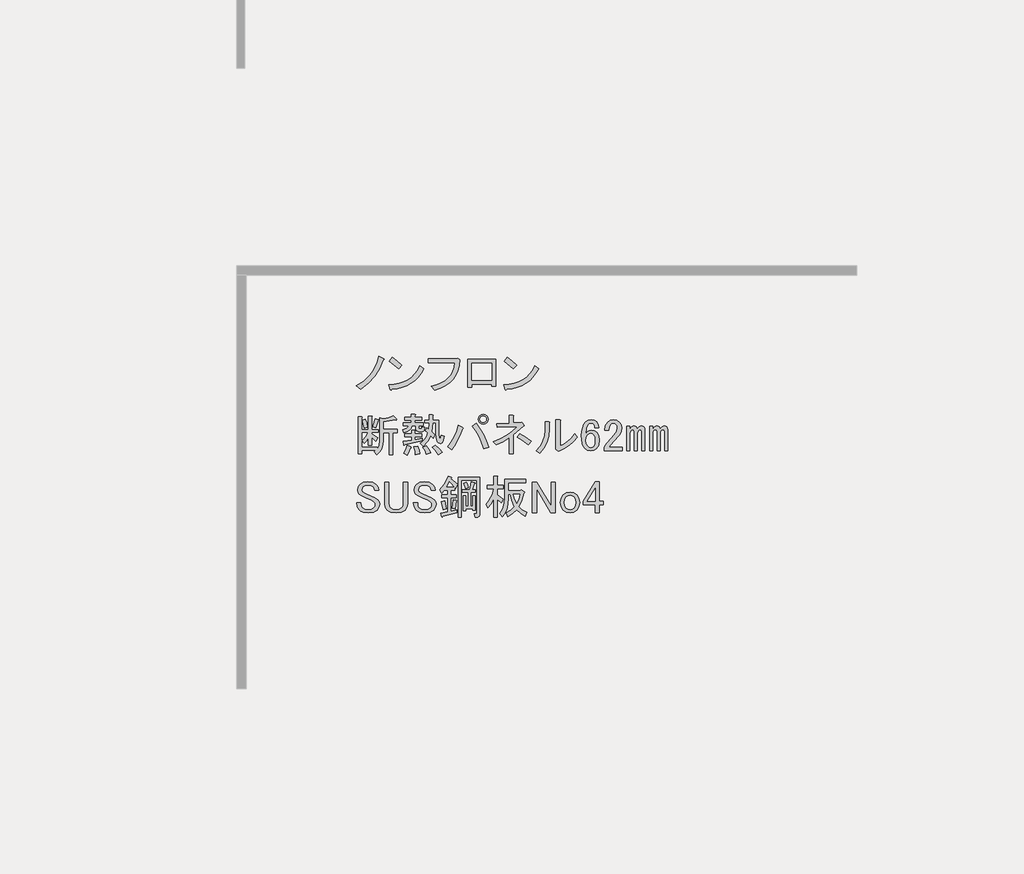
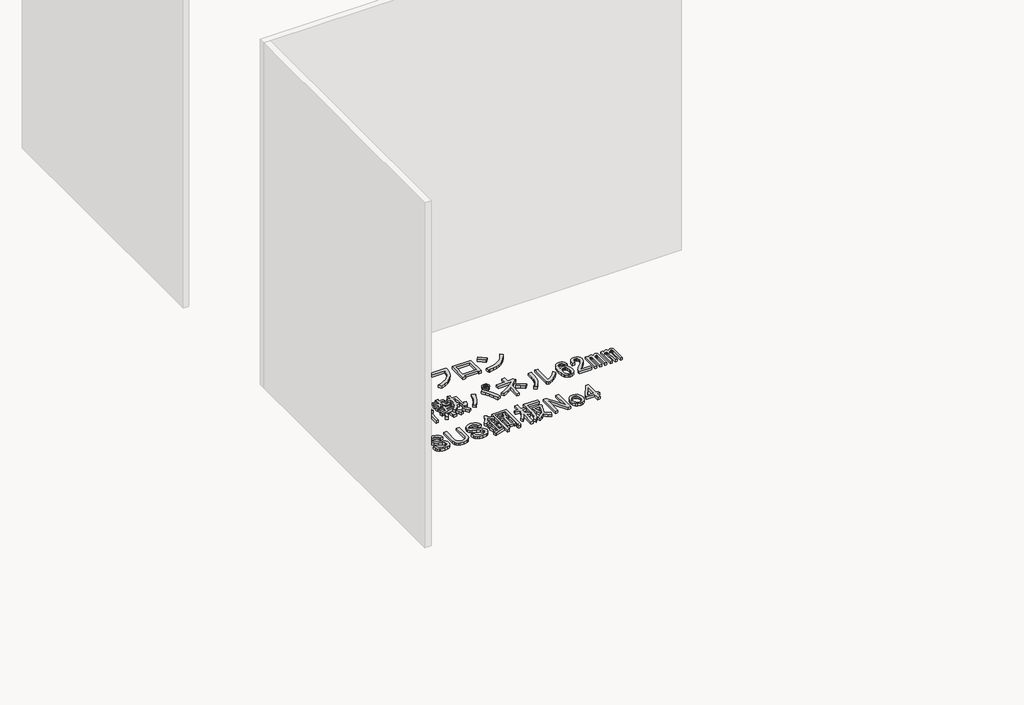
# One storey, part 90 of 117: 1 proxy.
"""IFC4 building model written with IfcOpenShell, lengths in millimetres."""

from ifc_helpers import new_model, si_unit, frame, origin, place, context, project, spatial, polyline, outline, extrude, element, save

model = new_model("IFC4")

# Units and contexts
model_context = context("Model", 3, world=origin())
ifc_project = project(units=[si_unit("LENGTHUNIT", "METRE", prefix="MILLI")], contexts=[model_context])

# Site, building, storey
site = spatial("IfcSite", under=ifc_project)
building = spatial("IfcBuilding", under=site)
storey = spatial("IfcBuildingStorey", under=building, Name="レベル 1", Elevation=500.0)

# Proxy
placement = place(None, origin())
element("IfcBuildingElementProxy", 1, Name="200㎜\u3000MS Pゴシック", ObjectType="200㎜\u3000MS Pゴシック", at=placement, inside=storey, context=model_context, shape_type="SweptSolid", body=[
    extrude(outline(polyline([(16943.6706985, 3392.9503118), (16918.0952502, 3333.1784775), (16889.646156, 3287.2001434), (16847.9782907, 3241.7965385), (16798.8389462, 3204.439142), (16771.2519457, 3226.2788507), (16818.9544673, 3256.7394971), (16858.6107805, 3295.2463519), (16875.9963381, 3319.1694538), (16891.3703435, 3347.2593423), (16904.7327969, 3379.5160173), (16916.0836981, 3415.9394788), (16947.1190736, 3402.1459786), (16950.2800841, 3397.5481452), (16943.6706985, 3392.9503118)])), frame((0.0, 0.0, 500.0), z_axis=(0.0, 0.0, 1.0), x_axis=(1.0, 0.0, 0.0)), (0.0, 0.0, 1.0), 25.0),
    extrude(outline(polyline([(17043.3977052, 3337.7763109), (16984.7753292, 3384.9041033), (17004.3161212, 3409.0427287), (17031.6157571, 3389.2145721), (17065.2374138, 3359.6160196), (17043.3977052, 3337.7763109)])), frame((0.0, 0.0, 500.0), z_axis=(0.0, 0.0, 1.0), x_axis=(1.0, 0.0, 0.0)), (0.0, 0.0, 1.0), 25.0),
    extrude(outline(polyline([(17205.4713328, 3337.7763109), (17188.947869, 3308.034076), (17169.8381239, 3282.0275808), (17148.1420975, 3259.7568252), (17123.8597898, 3241.2218093), (17096.9912008, 3226.422533), (17067.5363306, 3215.3589964), (17035.495179, 3208.0311994), (17000.8677461, 3204.439142), (16995.1204544, 3196.3929336), (16989.3731626, 3202.1402253), (16980.1774958, 3232.0261425), (17016.0082679, 3234.7022252), (17048.7857912, 3241.0062859), (17078.5100658, 3250.9383244), (17105.1810916, 3264.4983409), (17128.7988687, 3281.6863354), (17149.363397, 3302.5023077), (17166.8746766, 3326.946258), (17181.3327074, 3355.0181862), (17205.4713328, 3337.7763109)])), frame((0.0, 0.0, 500.0), z_axis=(0.0, 0.0, 1.0), x_axis=(1.0, 0.0, 0.0)), (0.0, 0.0, 1.0), 25.0),
    extrude(outline(polyline([(17256.2314136, 3222.8304757), (17290.014713, 3232.5110702), (17319.5234641, 3244.8857078), (17344.757667, 3259.9543884), (17365.7173217, 3277.717112), (17382.402428, 3298.1738786), (17394.8129862, 3321.3246882), (17402.9489961, 3347.1695409), (17406.8104577, 3375.7084365), (17234.3917049, 3375.7084365), (17234.3917049, 3400.9965202), (17409.1093744, 3400.9965202), (17425.2017914, 3404.4448953), (17437.8458332, 3392.9503118), (17434.325617, 3356.4550091), (17426.0638851, 3323.4080815), (17413.0606375, 3293.8095289), (17395.3158742, 3267.6593514), (17372.8295952, 3244.957549), (17345.6018005, 3225.7041216), (17313.6324901, 3209.8990692), (17276.921664, 3197.5423919), (17256.2314136, 3222.8304757)])), frame((0.0, 0.0, 500.0), z_axis=(0.0, 0.0, 1.0), x_axis=(1.0, 0.0, 0.0)), (0.0, 0.0, 1.0), 25.0),
    extrude(outline(polyline([(17670.955987, 3223.979934), (17644.5184449, 3223.979934), (17644.5184449, 3236.6239759), (17516.9285679, 3236.6239759), (17516.9285679, 3218.2326423), (17490.4910258, 3218.2326423), (17490.4910258, 3397.5481452), (17670.955987, 3397.5481452), (17670.955987, 3223.979934)]), holes=[polyline([(17516.9285679, 3372.2600614), (17516.9285679, 3261.9120596), (17644.5184449, 3261.9120596), (17644.5184449, 3372.2600614), (17516.9285679, 3372.2600614)])]), frame((0.0, 0.0, 500.0), z_axis=(0.0, 0.0, 1.0), x_axis=(1.0, 0.0, 0.0)), (0.0, 0.0, 1.0), 25.0),
    extrude(outline(polyline([(17947.0099049, 3337.7763109), (17930.4864411, 3308.034076), (17911.376696, 3282.0275808), (17889.6806696, 3259.7568252), (17865.3983619, 3241.2218093), (17838.5297729, 3226.422533), (17809.0749026, 3215.3589964), (17777.0337511, 3208.0311994), (17742.4063182, 3204.439142), (17736.6590264, 3196.3929336), (17730.9117347, 3202.1402253), (17721.7160679, 3232.0261425), (17757.5468399, 3234.7022252), (17790.3243633, 3241.0062859), (17820.0486378, 3250.9383244), (17846.7196637, 3264.4983409), (17870.3374407, 3281.6863354), (17890.9019691, 3302.5023077), (17908.4132486, 3326.946258), (17922.8712795, 3355.0181862), (17947.0099049, 3337.7763109)])), frame((0.0, 0.0, 500.0), z_axis=(0.0, 0.0, 1.0), x_axis=(1.0, 0.0, 0.0)), (0.0, 0.0, 1.0), 25.0),
    extrude(outline(polyline([(17784.9362772, 3337.7763109), (17726.3139013, 3384.9041033), (17745.8546933, 3409.0427287), (17773.1543291, 3389.2145721), (17806.7759859, 3359.6160196), (17784.9362772, 3337.7763109)])), frame((0.0, 0.0, 500.0), z_axis=(0.0, 0.0, 1.0), x_axis=(1.0, 0.0, 0.0)), (0.0, 0.0, 1.0), 25.0),
    extrude(outline(polyline([(16877.0021141, 2960.7654779), (16894.2439894, 3013.6405621), (16914.9342397, 3007.8932704), (16916.6584273, 3004.7322599), (16912.635323, 3002.1459786), (16895.3934478, 2953.8687278), (16877.0021141, 2960.7654779)])), frame((0.0, 0.0, 500.0), z_axis=(0.0, 0.0, 1.0), x_axis=(1.0, 0.0, 0.0)), (0.0, 0.0, 1.0), 25.0),
    extrude(outline(polyline([(17031.0295333, 3009.0427287), (17029.3053458, 3004.4448953), (17021.8338665, 3006.743812), (16944.8201569, 2994.0997701), (16944.8201569, 2944.673061), (17036.7768251, 2944.673061), (17036.7768251, 2922.8333523), (17005.7414495, 2922.8333523), (17005.7414495, 2782.5994334), (16982.7522825, 2782.5994334), (16982.7522825, 2922.8333523), (16944.8201569, 2922.8333523), (16944.8201569, 2873.4066432), (16942.2338756, 2845.6041193), (16934.4750317, 2820.8189236), (16921.5436253, 2799.051056), (16903.4396562, 2780.3005167), (16886.1977809, 2799.8413086), (16896.5429061, 2809.0369755), (16806.8851546, 2809.0369755), (16806.8851546, 2787.1972668), (16783.8959876, 2787.1972668), (16783.8959876, 3026.284604), (16805.7356963, 3026.284604), (16810.6208943, 3023.9856873), (16806.8851546, 3019.3878539), (16806.8851546, 2943.5236026), (16849.4151137, 2943.5236026), (16849.4151137, 3030.8824374), (16867.8064473, 3030.8824374), (16872.6916453, 3028.5835207), (16868.9559057, 3023.9856873), (16868.9559057, 2943.5236026), (16912.635323, 2943.5236026), (16912.635323, 2925.132269), (16868.9559057, 2925.132269), (16868.9559057, 2915.9366022), (16909.186948, 2889.4990601), (16895.3934478, 2867.6593514), (16868.9559057, 2894.0968935), (16868.9559057, 2841.2218093), (16849.4151137, 2841.2218093), (16849.4151137, 2889.4990601), (16836.1963426, 2869.6709035), (16821.8281132, 2853.8658512), (16809.1840713, 2872.2571848), (16831.02378, 2896.3958102), (16848.2656553, 2925.132269), (16806.8851546, 2925.132269), (16806.8851546, 2830.8766841), (16904.5891146, 2830.8766841), (16904.5891146, 2817.0831839), (16917.520521, 2841.2218093), (16921.8309898, 2874.5561015), (16921.8309898, 3019.3878539), (16943.6706985, 3013.6405621), (16979.8786366, 3021.1120414), (17010.339283, 3034.3308125), (17031.0295333, 3009.0427287)])), frame((0.0, 0.0, 500.0), z_axis=(0.0, 0.0, 1.0), x_axis=(1.0, 0.0, 0.0)), (0.0, 0.0, 1.0), 25.0),
    extrude(outline(polyline([(16822.9775716, 2952.7192695), (16810.3335297, 3003.2954369), (16829.8743217, 3010.1921871), (16837.6331656, 2986.0535617), (16842.5183636, 2959.6160196), (16822.9775716, 2952.7192695)])), frame((0.0, 0.0, 500.0), z_axis=(0.0, 0.0, 1.0), x_axis=(1.0, 0.0, 0.0)), (0.0, 0.0, 1.0), 25.0),
    extrude(outline(polyline([(17121.8367431, 2832.0261425), (17125.2851182, 2827.1409445), (17119.5378264, 2823.979934), (17109.7674304, 2798.4044857), (17098.8475761, 2779.1510583), (17075.858409, 2790.6456418), (17088.5024509, 2814.209538), (17098.8475761, 2841.2218093), (17121.8367431, 2832.0261425)])), frame((0.0, 0.0, 500.0), z_axis=(0.0, 0.0, 1.0), x_axis=(1.0, 0.0, 0.0)), (0.0, 0.0, 1.0), 25.0),
    extrude(outline(polyline([(17166.6656188, 2836.6239759), (17176.7233794, 2809.32434), (17181.6085774, 2787.1972668), (17152.8721186, 2781.449975), (17150.2858373, 2803.0023191), (17142.5269934, 2833.1756008), (17166.6656188, 2836.6239759)])), frame((0.0, 0.0, 500.0), z_axis=(0.0, 0.0, 1.0), x_axis=(1.0, 0.0, 0.0)), (0.0, 0.0, 1.0), 25.0),
    extrude(outline(polyline([(17281.611454, 2842.3712677), (17306.3248086, 2821.1062881), (17325.2908714, 2796.3929336), (17298.8533293, 2781.449975), (17279.5999019, 2811.0485276), (17260.9212037, 2830.8766841), (17281.611454, 2842.3712677)])), frame((0.0, 0.0, 500.0), z_axis=(0.0, 0.0, 1.0), x_axis=(1.0, 0.0, 0.0)), (0.0, 0.0, 1.0), 25.0),
    extrude(outline(polyline([(17222.9890781, 2783.7488917), (17214.655505, 2808.4622463), (17201.1493694, 2829.7272258), (17221.8396197, 2837.7734343), (17238.7941304, 2816.2210902), (17250.5760785, 2792.9445585), (17222.9890781, 2783.7488917)])), frame((0.0, 0.0, 500.0), z_axis=(0.0, 0.0, 1.0), x_axis=(1.0, 0.0, 0.0)), (0.0, 0.0, 1.0), 25.0),
    extrude(outline(polyline([(17083.9046175, 2846.9691011), (17081.8930654, 2842.0839031), (17078.1573257, 2843.520726), (17072.410034, 2867.6593514), (17127.5840349, 2875.7055599), (17127.5840349, 2898.6947269), (17083.9046175, 2898.6947269), (17083.9046175, 2917.0860605), (17127.5840349, 2917.0860605), (17127.5840349, 2940.0752276), (17145.9753685, 2940.0752276), (17150.8605665, 2937.7763109), (17147.1248268, 2933.1784775), (17147.1248268, 2917.0860605), (17191.9537026, 2917.0860605), (17191.9537026, 2898.6947269), (17147.1248268, 2898.6947269), (17147.1248268, 2879.1539349), (17197.7009943, 2888.3496017), (17197.7009943, 2872.2571848), (17083.9046175, 2846.9691011)])), frame((0.0, 0.0, 500.0), z_axis=(0.0, 0.0, 1.0), x_axis=(1.0, 0.0, 0.0)), (0.0, 0.0, 1.0), 25.0),
    extrude(outline(polyline([(17154.021577, 2968.8116864), (17128.7334932, 2968.8116864), (17124.1356598, 2951.3542877), (17113.7905346, 2938.0636755), (17097.6981177, 2928.9398498), (17075.858409, 2923.9828107), (17071.2605756, 2943.5236026), (17096.5486594, 2952.1445403), (17104.0201386, 2959.4723373), (17108.0432429, 2968.8116864), (17072.410034, 2968.8116864), (17072.410034, 2987.20302), (17126.4345765, 2987.20302), (17126.4345765, 3004.4448953), (17082.7551591, 3004.4448953), (17082.7551591, 3022.8362289), (17126.4345765, 3022.8362289), (17126.4345765, 3041.2275626), (17148.2742852, 3041.2275626), (17153.1594832, 3038.9286459), (17149.4237436, 3034.3308125), (17149.4237436, 3022.8362289), (17191.9537026, 3022.8362289), (17191.9537026, 3004.4448953), (17149.4237436, 3004.4448953), (17149.4237436, 2987.20302), (17202.2988277, 2987.20302), (17202.2988277, 2968.8116864), (17173.5623689, 2968.8116864), (17173.5623689, 2956.1676445), (17174.9991919, 2950.9950819), (17179.3096607, 2949.2708944), (17189.6547859, 2949.2708944), (17193.3905255, 2952.4319049), (17193.1031609, 2961.9149363), (17212.6439529, 2959.6160196), (17209.770307, 2938.0636755), (17204.4540622, 2932.6755894), (17196.551536, 2930.8795608), (17172.4129106, 2930.8795608), (17158.6194104, 2935.7647588), (17154.021577, 2950.4203528), (17154.021577, 2968.8116864)])), frame((0.0, 0.0, 500.0), z_axis=(0.0, 0.0, 1.0), x_axis=(1.0, 0.0, 0.0)), (0.0, 0.0, 1.0), 25.0),
    extrude(outline(polyline([(17285.0598291, 2986.0535617), (17263.2201204, 2986.0535617), (17258.622287, 2928.5806441), (17278.163079, 2910.1893104), (17267.8179538, 2888.3496017), (17251.7255369, 2904.4420187), (17232.4721095, 2866.7972576), (17202.2988277, 2834.3250592), (17185.0569525, 2855.0153095), (17200.1435933, 2866.9409399), (17213.2186821, 2882.0275808), (17224.2822187, 2900.2752321), (17233.3342033, 2921.683894), (17216.092328, 2936.6268525), (17224.1385364, 2953.8687278), (17237.9320367, 2943.5236026), (17240.2309534, 2986.0535617), (17212.6439529, 2986.0535617), (17212.6439529, 3004.4448953), (17240.2309534, 3004.4448953), (17240.2309534, 3038.9286459), (17262.0706621, 3038.9286459), (17266.95586, 3036.6297292), (17263.2201204, 3032.0318957), (17263.2201204, 3004.4448953), (17304.6006211, 3004.4448953), (17304.6006211, 2907.8903937), (17308.0489961, 2883.7517683), (17311.2818477, 2881.7402162), (17314.0836525, 2884.9012267), (17318.3941213, 2906.7409354), (17337.9349133, 2899.8441853), (17333.408921, 2873.0474374), (17325.578236, 2857.0268616), (17314.4428582, 2851.7824579), (17300.0027877, 2857.3142262), (17293.4652433, 2864.6420232), (17288.7955687, 2876.280289), (17285.0598291, 2912.4882271), (17285.0598291, 2986.0535617)])), frame((0.0, 0.0, 500.0), z_axis=(0.0, 0.0, 1.0), x_axis=(1.0, 0.0, 0.0)), (0.0, 0.0, 1.0), 25.0),
    extrude(outline(polyline([(17543.6879583, 2983.754645), (17570.3410238, 2947.0438188), (17592.8273029, 2909.3272167), (17611.1467953, 2870.6048384), (17625.2995013, 2830.8766841), (17594.2641258, 2820.531559), (17578.8182792, 2863.6362472), (17561.2171982, 2902.143102), (17541.4608827, 2936.0521234), (17519.5493329, 2965.3633113), (17543.6879583, 2983.754645)])), frame((0.0, 0.0, 500.0), z_axis=(0.0, 0.0, 1.0), x_axis=(1.0, 0.0, 0.0)), (0.0, 0.0, 1.0), 25.0),
    extrude(outline(polyline([(17456.3291235, 2957.3171029), (17460.3522278, 2951.8571757), (17454.0302068, 2946.9719777), (17442.1045764, 2911.5542922), (17427.0179356, 2877.717112), (17408.7702842, 2845.460437), (17387.3616224, 2814.7842672), (17360.9240803, 2832.0261425), (17384.1287708, 2863.4925649), (17403.1666748, 2896.9705394), (17418.0377922, 2932.460066), (17428.7421231, 2969.9611447), (17456.3291235, 2957.3171029)])), frame((0.0, 0.0, 500.0), z_axis=(0.0, 0.0, 1.0), x_axis=(1.0, 0.0, 0.0)), (0.0, 0.0, 1.0), 25.0),
    extrude(outline(polyline([(17589.6662924, 2978.0073532), (17577.0222505, 2980.3062699), (17566.6771253, 2987.20302), (17559.7803752, 2997.5481452), (17557.4814585, 3010.1921871), (17559.7803752, 3022.8362289), (17566.6771253, 3033.1813541), (17577.0222505, 3040.0781042), (17589.6662924, 3042.3770209), (17602.3103343, 3040.0781042), (17612.6554594, 3033.1813541), (17619.5522095, 3022.8362289), (17621.8511262, 3010.1921871), (17619.5522095, 2997.5481452), (17612.6554594, 2987.20302), (17602.3103343, 2980.3062699), (17589.6662924, 2978.0073532)]), holes=[polyline([(17589.6662924, 2989.5019367), (17597.9998654, 2990.9387597), (17604.609251, 2995.2492285), (17608.9197198, 3001.858614), (17610.3565427, 3010.1921871), (17608.9197198, 3018.5257601), (17604.609251, 3025.1351456), (17597.9998654, 3029.4456145), (17589.6662924, 3030.8824374), (17581.3327193, 3029.4456145), (17574.7233338, 3025.1351456), (17570.412865, 3018.5257601), (17568.976042, 3010.1921871), (17570.412865, 3001.858614), (17574.7233338, 2995.2492285), (17581.3327193, 2990.9387597), (17589.6662924, 2989.5019367)])]), frame((0.0, 0.0, 500.0), z_axis=(0.0, 0.0, 1.0), x_axis=(1.0, 0.0, 0.0)), (0.0, 0.0, 1.0), 25.0),
    extrude(outline(polyline([(17879.3297971, 2844.6701844), (17842.2597652, 2873.9813723), (17809.2128376, 2895.2463519), (17826.4547129, 2917.0860605), (17865.2489323, 2893.8095289), (17898.8705891, 2867.6593514), (17879.3297971, 2844.6701844)])), frame((0.0, 0.0, 500.0), z_axis=(0.0, 0.0, 1.0), x_axis=(1.0, 0.0, 0.0)), (0.0, 0.0, 1.0), 25.0),
    extrude(outline(polyline([(17833.351463, 2988.3524784), (17840.2482131, 2990.6513951), (17852.892255, 2973.4095198), (17854.0417134, 2967.3748634), (17848.2944216, 2965.3633113), (17785.0742122, 2909.0398521), (17785.0742122, 2788.3467251), (17758.6366701, 2788.3467251), (17758.6366701, 2890.6485184), (17718.4056278, 2866.5098931), (17673.5767521, 2844.6701844), (17654.0359601, 2865.3604347), (17699.5832473, 2884.8293855), (17740.8200657, 2907.6030291), (17777.7464152, 2933.6813655), (17810.362296, 2963.0643946), (17680.4735022, 2957.3171029), (17677.0251271, 2982.6051866), (17758.6366701, 2984.9041033), (17758.6366701, 3036.6297292), (17781.6258372, 3036.6297292), (17787.6604935, 3033.1813541), (17785.0742122, 3027.4340623), (17785.0742122, 2986.0535617), (17833.351463, 2988.3524784)])), frame((0.0, 0.0, 500.0), z_axis=(0.0, 0.0, 1.0), x_axis=(1.0, 0.0, 0.0)), (0.0, 0.0, 1.0), 25.0),
    extrude(outline(polyline([(17932.296838, 2806.7380587), (17957.4412394, 2835.9774056), (17975.4015262, 2868.5214452), (17986.1776982, 2904.3701775), (17989.7697556, 2943.5236026), (17989.7697556, 2995.2492285), (18013.908381, 2995.2492285), (18019.6556727, 2991.8008534), (18016.2072977, 2986.0535617), (18016.2072977, 2944.673061), (18012.3997169, 2898.9102504), (18000.9769745, 2858.17632), (17981.9390705, 2822.4712699), (17955.286005, 2791.7951002), (17932.296838, 2806.7380587)])), frame((0.0, 0.0, 500.0), z_axis=(0.0, 0.0, 1.0), x_axis=(1.0, 0.0, 0.0)), (0.0, 0.0, 1.0), 25.0),
    extrude(outline(polyline([(18086.3242571, 2837.7734343), (18111.1094529, 2849.9864292), (18134.8888725, 2867.0846222), (18157.6625161, 2889.0680132), (18179.4303837, 2915.9366022), (18195.5228006, 2894.0968935), (18172.246269, 2866.2943696), (18146.0960914, 2842.6586322), (18117.0722681, 2823.1896814), (18085.1747988, 2807.8875171), (18075.979132, 2803.2896837), (18057.5877983, 2817.0831839), (18059.886715, 2822.8304757), (18059.886715, 3007.8932704), (18084.0253404, 3007.8932704), (18089.7726322, 3004.4448953), (18086.3242571, 2998.6976035), (18086.3242571, 2837.7734343)])), frame((0.0, 0.0, 500.0), z_axis=(0.0, 0.0, 1.0), x_axis=(1.0, 0.0, 0.0)), (0.0, 0.0, 1.0), 25.0),
    extrude(outline(polyline([(18224.2592594, 2902.143102), (18225.9834469, 2931.5261311), (18231.1560095, 2956.4550091), (18239.7769471, 2976.929736), (18251.8462598, 2992.9503118), (18267.3639476, 3003.2954369), (18286.3300104, 3006.743812), (18306.158167, 3003.2954369), (18321.9632193, 2992.9503118), (18333.1704382, 2975.9958011), (18336.9061779, 2955.0181862), (18310.4686358, 2955.0181862), (18308.7444483, 2968.8116864), (18303.5718857, 2978.0073532), (18295.8130418, 2983.1799158), (18286.3300104, 2984.9041033), (18276.846979, 2983.1799158), (18269.0881351, 2978.0073532), (18261.0419266, 2967.0874989), (18255.2946349, 2952.7192695), (18250.6968015, 2913.6376855), (18262.191385, 2928.5806441), (18273.6859685, 2936.3394879), (18287.4794687, 2938.9257692), (18306.4455316, 2935.4773942), (18321.9632193, 2925.132269), (18334.8946258, 2903.5799249), (18339.2050946, 2873.4066432), (18334.6072612, 2842.0839031), (18320.813761, 2819.3821006), (18304.4339794, 2809.0369755), (18282.8816353, 2805.5886004), (18263.0534788, 2809.8990692), (18244.9495097, 2822.8304757), (18235.8975252, 2835.5463587), (18229.431822, 2853.0037574), (18224.2592594, 2902.143102)]), holes=[polyline([(18285.180552, 2918.2355189), (18274.5480623, 2916.2239668), (18265.6397601, 2910.1893104), (18256.1567286, 2895.2463519), (18252.9957182, 2875.7055599), (18256.4440932, 2851.5669345), (18266.7892184, 2834.3250592), (18275.1227915, 2828.2904028), (18284.0310937, 2826.2788507), (18293.5141251, 2828.0030383), (18301.272969, 2833.1756008), (18309.0318128, 2848.405924), (18311.6180941, 2873.4066432), (18309.0318128, 2895.821081), (18301.272969, 2910.1893104), (18293.2267605, 2916.2239668), (18285.180552, 2918.2355189)])]), frame((0.0, 0.0, 500.0), z_axis=(0.0, 0.0, 1.0), x_axis=(1.0, 0.0, 0.0)), (0.0, 0.0, 1.0), 25.0),
    extrude(outline(polyline([(18374.8383035, 2937.7763109), (18379.4361369, 2969.099051), (18393.2296371, 2991.8008534), (18409.6094186, 3003.0080724), (18428.862846, 3006.743812), (18451.5646485, 3003.0080724), (18469.0938884, 2991.8008534), (18480.3011073, 2975.1337073), (18484.0368469, 2955.0181862), (18479.7263781, 2929.1553732), (18466.7949717, 2906.7409354), (18433.4606795, 2868.8088098), (18415.0693458, 2848.1185594), (18401.2758456, 2829.7272258), (18487.485222, 2829.7272258), (18487.485222, 2807.8875171), (18370.2404701, 2807.8875171), (18370.2404701, 2827.4283091), (18376.2751264, 2841.2218093), (18389.7812621, 2859.6131429), (18436.9090545, 2911.3387688), (18451.5646485, 2932.6037483), (18456.4498465, 2955.0181862), (18454.1509298, 2967.662228), (18447.2541797, 2978.0073532), (18439.4953358, 2983.1799158), (18430.0123044, 2984.9041033), (18421.3913668, 2983.1799158), (18413.9198875, 2978.0073532), (18404.4368561, 2961.6275717), (18401.2758456, 2937.7763109), (18374.8383035, 2937.7763109)])), frame((0.0, 0.0, 500.0), z_axis=(0.0, 0.0, 1.0), x_axis=(1.0, 0.0, 0.0)), (0.0, 0.0, 1.0), 25.0),
    extrude(outline(polyline([(18536.9119311, 2806.7380587), (18517.3711392, 2806.7380587), (18517.3711392, 2964.213853), (18536.9119311, 2964.213853), (18536.9119311, 2946.9719777), (18548.9812438, 2962.4896654), (18562.2000149, 2967.662228), (18571.3956817, 2966.2254051), (18578.2924318, 2961.9149363), (18585.1891819, 2948.121436), (18598.1205884, 2962.77703), (18611.626724, 2967.662228), (18619.9602971, 2966.2254051), (18626.5696826, 2961.9149363), (18631.7422452, 2953.2939986), (18633.4664327, 2941.2246859), (18633.4664327, 2806.7380587), (18613.9256407, 2806.7380587), (18613.9256407, 2930.8795608), (18611.3393594, 2940.3625922), (18603.5805156, 2943.5236026), (18593.2353904, 2938.9257692), (18587.200734, 2930.3048316), (18585.1891819, 2920.5344356), (18585.1891819, 2806.7380587), (18565.6483899, 2806.7380587), (18565.6483899, 2930.8795608), (18563.0621086, 2940.3625922), (18555.3032648, 2943.5236026), (18544.9581396, 2938.9257692), (18538.9234833, 2930.3048316), (18536.9119311, 2920.5344356), (18536.9119311, 2806.7380587)])), frame((0.0, 0.0, 500.0), z_axis=(0.0, 0.0, 1.0), x_axis=(1.0, 0.0, 0.0)), (0.0, 0.0, 1.0), 25.0),
    extrude(outline(polyline([(18758.7573931, 2967.662228), (18767.0909661, 2966.2254051), (18773.7003517, 2961.9149363), (18778.8729142, 2953.2939986), (18780.5971018, 2941.2246859), (18780.5971018, 2806.7380587), (18761.0563098, 2806.7380587), (18761.0563098, 2930.8795608), (18758.4700285, 2940.3625922), (18750.7111846, 2943.5236026), (18740.3660594, 2938.9257692), (18734.3314031, 2930.3048316), (18732.319851, 2920.5344356), (18732.319851, 2806.7380587), (18712.779059, 2806.7380587), (18712.779059, 2930.8795608), (18710.1927777, 2940.3625922), (18702.4339338, 2943.5236026), (18692.0888087, 2938.9257692), (18686.0541523, 2930.3048316), (18684.0426002, 2920.5344356), (18684.0426002, 2806.7380587), (18664.5018082, 2806.7380587), (18664.5018082, 2964.213853), (18684.0426002, 2964.213853), (18684.0426002, 2946.9719777), (18696.1119129, 2962.4896654), (18709.3306839, 2967.662228), (18718.5263508, 2966.2254051), (18725.4231009, 2961.9149363), (18732.319851, 2948.121436), (18745.2512574, 2962.77703), (18758.7573931, 2967.662228)])), frame((0.0, 0.0, 500.0), z_axis=(0.0, 0.0, 1.0), x_axis=(1.0, 0.0, 0.0)), (0.0, 0.0, 1.0), 25.0),
    extrude(outline(polyline([(16779.2981542, 2552.7192695), (16783.3212584, 2573.1221552), (16795.3905711, 2590.6513951), (16815.7934569, 2602.7207078), (16844.8172803, 2606.743812), (16876.1400204, 2602.1459786), (16898.8418228, 2588.3524784), (16910.9111355, 2570.8232385), (16914.9342397, 2550.4203528), (16888.4966976, 2550.4203528), (16886.1977809, 2563.0643946), (16879.3010308, 2573.4095198), (16866.0822598, 2581.1683637), (16847.116197, 2583.754645), (16826.7133112, 2581.4557283), (16813.7819048, 2574.5589781), (16807.7472484, 2565.9380405), (16805.7356963, 2556.1676445), (16810.3335297, 2541.2246859), (16831.02378, 2529.7301024), (16890.7956143, 2503.2925603), (16908.0374896, 2491.7979768), (16917.520521, 2478.0044766), (16920.6815315, 2461.9120596), (16916.6584273, 2440.6470801), (16904.5891146, 2422.8304757), (16894.6031951, 2415.2871552), (16881.8873121, 2409.8990692), (16848.2656553, 2405.5886004), (16814.6439985, 2410.761163), (16801.0660217, 2417.2268662), (16789.6432794, 2426.2788507), (16778.4360604, 2444.6701844), (16774.7003208, 2469.9582681), (16801.1378629, 2469.9582681), (16803.4367796, 2452.1416637), (16810.3335297, 2440.072351), (16826.4259466, 2430.5893196), (16849.4151137, 2427.4283091), (16870.3927286, 2430.301955), (16885.0483226, 2438.9228926), (16891.9450727, 2448.1185594), (16894.2439894, 2457.3142262), (16892.5198019, 2466.7972576), (16887.3472393, 2474.5561015), (16868.9559057, 2486.050685), (16839.0699885, 2499.8441853), (16805.7356963, 2514.7871438), (16789.6432794, 2525.132269), (16781.8844355, 2537.2015817), (16779.2981542, 2552.7192695)])), frame((0.0, 0.0, 500.0), z_axis=(0.0, 0.0, 1.0), x_axis=(1.0, 0.0, 0.0)), (0.0, 0.0, 1.0), 25.0),
    extrude(outline(polyline([(16954.7054987, 2604.4448953), (16981.1430408, 2604.4448953), (16981.1430408, 2466.5098931), (16983.7293221, 2451.8542991), (16991.488166, 2440.072351), (17007.0058537, 2430.5893196), (17028.2708332, 2427.4283091), (17049.5358128, 2430.5893196), (17065.0535005, 2440.072351), (17072.8123444, 2451.8542991), (17075.3986257, 2466.5098931), (17075.3986257, 2604.4448953), (17101.8361678, 2604.4448953), (17101.8361678, 2465.3604347), (17097.8130635, 2442.3712677), (17085.7437508, 2423.979934), (17075.2549434, 2415.9337256), (17062.1798546, 2410.1864338), (17028.2708332, 2405.5886004), (16994.3618119, 2410.1864338), (16981.2867231, 2415.9337256), (16970.7979156, 2423.979934), (16958.7286029, 2442.3712677), (16954.7054987, 2465.3604347), (16954.7054987, 2604.4448953)])), frame((0.0, 0.0, 500.0), z_axis=(0.0, 0.0, 1.0), x_axis=(1.0, 0.0, 0.0)), (0.0, 0.0, 1.0), 25.0),
    extrude(outline(polyline([(17144.1822135, 2552.7192695), (17148.2053177, 2573.1221552), (17160.2746304, 2590.6513951), (17180.6775161, 2602.7207078), (17209.7013395, 2606.743812), (17241.0240796, 2602.1459786), (17263.7258821, 2588.3524784), (17275.7951948, 2570.8232385), (17279.818299, 2550.4203528), (17253.3807569, 2550.4203528), (17251.0818402, 2563.0643946), (17244.1850901, 2573.4095198), (17230.966319, 2581.1683637), (17212.0002562, 2583.754645), (17191.5973705, 2581.4557283), (17178.665964, 2574.5589781), (17172.6313077, 2565.9380405), (17170.6197556, 2556.1676445), (17175.217589, 2541.2246859), (17195.9078393, 2529.7301024), (17255.6796736, 2503.2925603), (17272.9215489, 2491.7979768), (17282.4045803, 2478.0044766), (17285.5655908, 2461.9120596), (17281.5424865, 2440.6470801), (17269.4731738, 2422.8304757), (17259.4872544, 2415.2871552), (17246.7713714, 2409.8990692), (17213.1497146, 2405.5886004), (17179.5280578, 2410.761163), (17165.950081, 2417.2268662), (17154.5273386, 2426.2788507), (17143.3201197, 2444.6701844), (17139.5843801, 2469.9582681), (17166.0219222, 2469.9582681), (17168.3208389, 2452.1416637), (17175.217589, 2440.072351), (17191.3100059, 2430.5893196), (17214.2991729, 2427.4283091), (17235.2767879, 2430.301955), (17249.9323819, 2438.9228926), (17256.829132, 2448.1185594), (17259.1280487, 2457.3142262), (17257.4038611, 2466.7972576), (17252.2312986, 2474.5561015), (17233.8399649, 2486.050685), (17203.9540478, 2499.8441853), (17170.6197556, 2514.7871438), (17154.5273386, 2525.132269), (17146.7684948, 2537.2015817), (17144.1822135, 2552.7192695)])), frame((0.0, 0.0, 500.0), z_axis=(0.0, 0.0, 1.0), x_axis=(1.0, 0.0, 0.0)), (0.0, 0.0, 1.0), 25.0),
    extrude(outline(polyline([(17413.8451429, 2565.3633113), (17372.4646422, 2609.0427287), (17350.6249335, 2569.9611447), (17405.7989344, 2569.9611447), (17405.7989344, 2551.5698111), (17379.3613923, 2551.5698111), (17379.3613923, 2522.8333523), (17417.2935179, 2522.8333523), (17417.2935179, 2504.4420187), (17379.3613923, 2504.4420187), (17379.3613923, 2417.0831839), (17418.4429763, 2427.4283091), (17420.741893, 2407.8875171), (17328.7852248, 2382.5994334), (17326.4863081, 2376.8521416), (17321.8884747, 2380.3005167), (17314.9917246, 2403.2896837), (17359.8206003, 2412.4853505), (17359.8206003, 2504.4420187), (17321.8884747, 2504.4420187), (17321.8884747, 2522.8333523), (17359.8206003, 2522.8333523), (17359.8206003, 2551.5698111), (17337.9808916, 2551.5698111), (17323.037933, 2533.1784775), (17310.3938912, 2553.8687278), (17338.5556208, 2591.5134888), (17363.2689754, 2642.3770209), (17385.1086841, 2636.6297292), (17388.5570591, 2632.8939895), (17382.8097674, 2630.8824374), (17381.660309, 2627.4340623), (17426.4891847, 2589.5019367), (17413.8451429, 2565.3633113)])), frame((0.0, 0.0, 500.0), z_axis=(0.0, 0.0, 1.0), x_axis=(1.0, 0.0, 0.0)), (0.0, 0.0, 1.0), 25.0),
    extrude(outline(polyline([(17481.6631856, 2602.1459786), (17488.8473003, 2586.9156554), (17494.3072275, 2566.5127697), (17477.0653522, 2560.7654779), (17465.5707687, 2597.5481452), (17481.6631856, 2602.1459786)])), frame((0.0, 0.0, 500.0), z_axis=(0.0, 0.0, 1.0), x_axis=(1.0, 0.0, 0.0)), (0.0, 0.0, 1.0), 25.0),
    extrude(outline(polyline([(17534.5382698, 2600.9965202), (17537.1245511, 2597.5481452), (17531.0898948, 2594.0997701), (17518.4458529, 2556.1676445), (17539.1361032, 2556.1676445), (17539.1361032, 2537.7763109), (17508.1007277, 2537.7763109), (17508.1007277, 2449.2680178), (17523.0436863, 2449.2680178), (17523.0436863, 2517.0860605), (17539.1361032, 2517.0860605), (17539.1361032, 2422.8304757), (17523.0436863, 2422.8304757), (17523.0436863, 2430.8766841), (17477.0653522, 2430.8766841), (17477.0653522, 2418.2326423), (17460.9729353, 2418.2326423), (17460.9729353, 2514.7871438), (17477.0653522, 2514.7871438), (17477.0653522, 2449.2680178), (17492.0083108, 2449.2680178), (17492.0083108, 2537.7763109), (17456.3751019, 2537.7763109), (17456.3751019, 2556.1676445), (17502.353436, 2556.1676445), (17512.6985611, 2605.5943537), (17534.5382698, 2600.9965202)])), frame((0.0, 0.0, 500.0), z_axis=(0.0, 0.0, 1.0), x_axis=(1.0, 0.0, 0.0)), (0.0, 0.0, 1.0), 25.0),
    extrude(outline(polyline([(17428.7881014, 2634.3308125), (17569.0220204, 2634.3308125), (17569.0220204, 2394.0940169), (17565.2862807, 2382.8867979), (17554.0790618, 2379.1510583), (17537.9866449, 2379.1510583), (17533.3888115, 2400.990767), (17544.883395, 2400.990767), (17548.33177, 2402.1402253), (17549.4812284, 2405.5886004), (17549.4812284, 2615.9394788), (17448.3288934, 2615.9394788), (17448.3288934, 2376.8521416), (17428.7881014, 2376.8521416), (17428.7881014, 2634.3308125)])), frame((0.0, 0.0, 500.0), z_axis=(0.0, 0.0, 1.0), x_axis=(1.0, 0.0, 0.0)), (0.0, 0.0, 1.0), 25.0),
    extrude(outline(polyline([(17417.2935179, 2486.050685), (17419.8797992, 2482.8896746), (17416.1440596, 2480.3033933), (17408.0978511, 2433.1756008), (17389.7065175, 2435.4745175), (17395.4538092, 2489.4990601), (17417.2935179, 2486.050685)])), frame((0.0, 0.0, 500.0), z_axis=(0.0, 0.0, 1.0), x_axis=(1.0, 0.0, 0.0)), (0.0, 0.0, 1.0), 25.0),
    extrude(outline(polyline([(17340.2798083, 2484.9012267), (17351.7743918, 2433.1756008), (17331.0841415, 2427.4283091), (17319.589558, 2479.1539349), (17340.2798083, 2484.9012267)])), frame((0.0, 0.0, 500.0), z_axis=(0.0, 0.0, 1.0), x_axis=(1.0, 0.0, 0.0)), (0.0, 0.0, 1.0), 25.0),
    extrude(outline(polyline([(17740.2913148, 2405.5886004), (17769.0277736, 2422.8304757), (17790.8674823, 2444.6701844), (17773.0508779, 2486.6254142), (17763.2804819, 2527.4311857), (17750.63644, 2527.4311857), (17750.63644, 2503.2925603), (17748.193841, 2461.5528539), (17740.866044, 2427.1409445), (17728.653049, 2400.0568321), (17711.554856, 2380.3005167), (17697.7613558, 2403.2896837), (17710.8364446, 2420.6752413), (17720.1757937, 2442.9459968), (17725.7794031, 2470.1019504), (17727.647273, 2502.143102), (17727.647273, 2622.8362289), (17864.4328169, 2622.8362289), (17864.4328169, 2600.9965202), (17750.63644, 2600.9965202), (17750.63644, 2549.2708944), (17829.9490663, 2549.2708944), (17835.6963581, 2555.0181862), (17855.23715, 2541.2246859), (17856.673973, 2537.4889463), (17851.788775, 2533.1784775), (17839.4320977, 2486.6254142), (17820.7533995, 2445.8196427), (17839.7194623, 2427.4283091), (17871.329567, 2409.0369755), (17862.1339002, 2384.8983501), (17834.2595351, 2400.990767), (17805.8104409, 2426.2788507), (17781.3844509, 2401.8528608), (17749.4869817, 2381.449975), (17740.2913148, 2405.5886004)]), holes=[polyline([(17785.1201906, 2527.4311857), (17793.166399, 2494.3842581), (17805.8104409, 2466.5098931), (17818.4544828, 2492.6600706), (17826.5006912, 2527.4311857), (17785.1201906, 2527.4311857)])]), frame((0.0, 0.0, 500.0), z_axis=(0.0, 0.0, 1.0), x_axis=(1.0, 0.0, 0.0)), (0.0, 0.0, 1.0), 25.0),
    extrude(outline(polyline([(17657.5303135, 2376.8521416), (17657.5303135, 2496.3958102), (17639.713709, 2462.1994242), (17620.7476462, 2440.072351), (17609.2530627, 2460.7626013), (17626.494938, 2483.4644037), (17640.2884382, 2507.8903937), (17650.6335634, 2534.0405712), (17657.5303135, 2561.9149363), (17616.1498128, 2561.9149363), (17616.1498128, 2583.754645), (17657.5303135, 2583.754645), (17657.5303135, 2643.5264793), (17679.3700222, 2643.5264793), (17684.2552202, 2641.2275626), (17680.5194805, 2636.6297292), (17680.5194805, 2583.754645), (17718.4516061, 2583.754645), (17718.4516061, 2561.9149363), (17680.5194805, 2561.9149363), (17680.5194805, 2521.683894), (17718.4516061, 2495.2463519), (17708.106481, 2472.2571848), (17680.5194805, 2495.2463519), (17680.5194805, 2376.8521416), (17657.5303135, 2376.8521416)])), frame((0.0, 0.0, 500.0), z_axis=(0.0, 0.0, 1.0), x_axis=(1.0, 0.0, 0.0)), (0.0, 0.0, 1.0), 25.0),
    extrude(outline(polyline([(17908.1122342, 2604.4448953), (17936.848693, 2604.4448953), (18028.8053612, 2449.2680178), (18028.8053612, 2604.4448953), (18055.2429033, 2604.4448953), (18055.2429033, 2407.8875171), (18026.5064445, 2407.8875171), (17934.5497763, 2563.0643946), (17934.5497763, 2407.8875171), (17908.1122342, 2407.8875171), (17908.1122342, 2604.4448953)])), frame((0.0, 0.0, 500.0), z_axis=(0.0, 0.0, 1.0), x_axis=(1.0, 0.0, 0.0)), (0.0, 0.0, 1.0), 25.0),
    extrude(outline(polyline([(18088.3932822, 2472.2571848), (18093.2784802, 2499.5568207), (18107.9340742, 2521.683894), (18127.1875015, 2534.6153004), (18150.4640332, 2538.9257692), (18173.7405648, 2534.6153004), (18192.9939922, 2521.683894), (18207.6495862, 2499.5568207), (18212.5347842, 2472.2571848), (18207.6495862, 2444.957549), (18192.9939922, 2422.8304757), (18173.7405648, 2409.8990692), (18150.4640332, 2405.5886004), (18127.1875015, 2409.8990692), (18107.9340742, 2422.8304757), (18093.2784802, 2444.957549), (18088.3932822, 2472.2571848)]), holes=[polyline([(18150.4640332, 2518.2355189), (18137.8199913, 2515.9366022), (18127.4748661, 2509.0398521), (18117.129741, 2492.9474352), (18113.6813659, 2472.2571848), (18116.8423764, 2451.8542991), (18126.3254078, 2436.6239759), (18137.5326267, 2428.865132), (18150.4640332, 2426.2788507), (18163.3954396, 2428.865132), (18174.6026586, 2436.6239759), (18184.08569, 2451.8542991), (18187.2467004, 2472.2571848), (18183.7983254, 2492.9474352), (18173.4532002, 2509.0398521), (18163.1080751, 2515.9366022), (18150.4640332, 2518.2355189)])]), frame((0.0, 0.0, 500.0), z_axis=(0.0, 0.0, 1.0), x_axis=(1.0, 0.0, 0.0)), (0.0, 0.0, 1.0), 25.0),
    extrude(outline(polyline([(18313.1813575, 2606.743812), (18339.6188996, 2606.743812), (18339.6188996, 2480.3033933), (18363.757525, 2480.3033933), (18363.757525, 2458.4636846), (18339.6188996, 2458.4636846), (18339.6188996, 2407.8875171), (18313.1813575, 2407.8875171), (18313.1813575, 2458.4636846), (18236.1676479, 2458.4636846), (18236.1676479, 2481.4528516), (18313.1813575, 2606.743812)]), holes=[polyline([(18313.1813575, 2564.213853), (18261.4557317, 2480.3033933), (18313.1813575, 2480.3033933), (18313.1813575, 2564.213853)])]), frame((0.0, 0.0, 500.0), z_axis=(0.0, 0.0, 1.0), x_axis=(1.0, 0.0, 0.0)), (0.0, 0.0, 1.0), 25.0),
])

save(model, "model.ifc")
